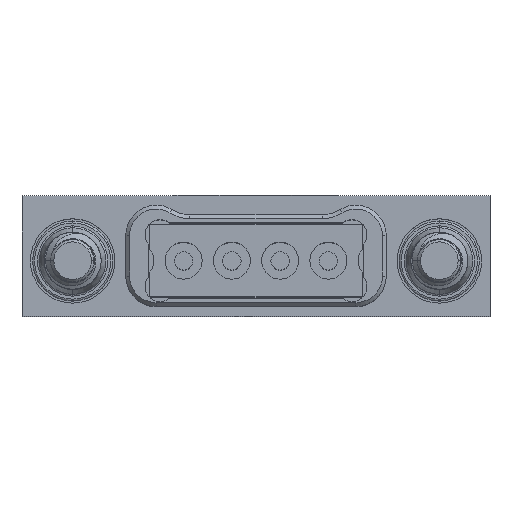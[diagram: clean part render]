
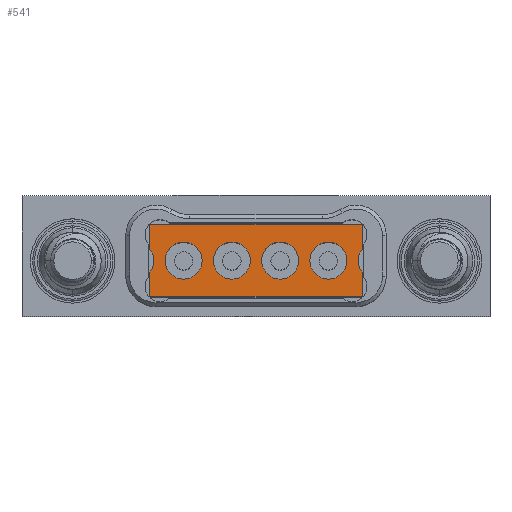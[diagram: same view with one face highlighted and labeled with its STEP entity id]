
A CAD part, top view. The second image highlights one B-rep face of the part: STEP entity #541.
In plain terms, the highlighted planar face has unit normal (0, 0, 1).
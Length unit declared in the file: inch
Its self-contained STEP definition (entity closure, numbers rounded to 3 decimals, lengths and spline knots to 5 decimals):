
#65 = DIRECTION ( 'NONE',  ( 0., 0., 1. ) ) ;
#93 = VERTEX_POINT ( 'NONE', #16876 ) ;
#238 = VERTEX_POINT ( 'NONE', #11364 ) ;
#462 = EDGE_CURVE ( 'NONE', #4793, #4223, #6267, .T. ) ;
#541 = ADVANCED_FACE ( 'NONE', ( #5456, #19055, #5262, #11614, #5549 ), #19146, .F. ) ;
#719 = EDGE_CURVE ( 'NONE', #16404, #9650, #7861, .T. ) ;
#757 = CARTESIAN_POINT ( 'NONE',  ( -0.075, -0.005, 0. ) ) ;
#848 = AXIS2_PLACEMENT_3D ( 'NONE', #11801, #14834, #7167 ) ;
#1144 = CARTESIAN_POINT ( 'NONE',  ( 0.025, -0.005, 0. ) ) ;
#1399 = AXIS2_PLACEMENT_3D ( 'NONE', #7723, #65, #6175 ) ;
#1415 = CARTESIAN_POINT ( 'NONE',  ( 0.11, 3.1419, 0. ) ) ;
#1645 = EDGE_CURVE ( 'NONE', #5217, #19242, #5521, .T. ) ;
#1769 = LINE ( 'NONE', #16771, #17273 ) ;
#1927 = EDGE_LOOP ( 'NONE', ( #10221, #14288, #5953, #7400, #2103, #6664, #8460, #19336 ) ) ;
#1970 = CIRCLE ( 'NONE', #16755, 0.0192 ) ;
#2103 = ORIENTED_EDGE ( 'NONE', *, *, #719, .F. ) ;
#2745 = DIRECTION ( 'NONE',  ( 0., -1., 0. ) ) ;
#3065 = DIRECTION ( 'NONE',  ( 0., -1., 0. ) ) ;
#3115 = DIRECTION ( 'NONE',  ( 0., -1., 0. ) ) ;
#3209 = CARTESIAN_POINT ( 'NONE',  ( -0.125, -0.005, 0. ) ) ;
#3502 = CARTESIAN_POINT ( 'NONE',  ( -0.11, 3.09846, 0. ) ) ;
#3556 = CARTESIAN_POINT ( 'NONE',  ( 0.075, -0.0242, 0. ) ) ;
#3743 = DIRECTION ( 'NONE',  ( 0., 0., 1. ) ) ;
#3839 = DIRECTION ( 'NONE',  ( 0., -1., 0. ) ) ;
#4132 = EDGE_CURVE ( 'NONE', #16732, #238, #19318, .T. ) ;
#4143 = VERTEX_POINT ( 'NONE', #4943 ) ;
#4223 = VERTEX_POINT ( 'NONE', #18425 ) ;
#4255 = EDGE_CURVE ( 'NONE', #8531, #93, #1970, .T. ) ;
#4571 = ORIENTED_EDGE ( 'NONE', *, *, #4255, .F. ) ;
#4634 = EDGE_CURVE ( 'NONE', #7201, #4143, #6794, .T. ) ;
#4777 = VECTOR ( 'NONE', #17083, 39.37008 ) ;
#4793 = VERTEX_POINT ( 'NONE', #3556 ) ;
#4931 = DIRECTION ( 'NONE',  ( 0., -1., 0. ) ) ;
#4943 = CARTESIAN_POINT ( 'NONE',  ( -0.11, 0.0325, 0. ) ) ;
#5038 = ORIENTED_EDGE ( 'NONE', *, *, #462, .F. ) ;
#5217 = VERTEX_POINT ( 'NONE', #5955 ) ;
#5262 = FACE_BOUND ( 'NONE', #13994, .T. ) ;
#5456 = FACE_OUTER_BOUND ( 'NONE', #1927, .T. ) ;
#5497 = AXIS2_PLACEMENT_3D ( 'NONE', #757, #11428, #3839 ) ;
#5521 = CIRCLE ( 'NONE', #18025, 0.0192 ) ;
#5532 = AXIS2_PLACEMENT_3D ( 'NONE', #3209, #15590, #4931 ) ;
#5549 = FACE_BOUND ( 'NONE', #10330, .T. ) ;
#5908 = DIRECTION ( 'NONE',  ( 0., -1., 0. ) ) ;
#5953 = ORIENTED_EDGE ( 'NONE', *, *, #6538, .F. ) ;
#5955 = CARTESIAN_POINT ( 'NONE',  ( 0.025, 0.0142, 0. ) ) ;
#5974 = VERTEX_POINT ( 'NONE', #8249 ) ;
#6150 = DIRECTION ( 'NONE',  ( 0., 0., 1. ) ) ;
#6175 = DIRECTION ( 'NONE',  ( 0., -1., 0. ) ) ;
#6231 = DIRECTION ( 'NONE',  ( 0., -1., 0. ) ) ;
#6267 = CIRCLE ( 'NONE', #11455, 0.0192 ) ;
#6327 = DIRECTION ( 'NONE',  ( 0., -1., 0. ) ) ;
#6379 = DIRECTION ( 'NONE',  ( -1., 0., 0. ) ) ;
#6538 = EDGE_CURVE ( 'NONE', #8754, #14495, #14247, .T. ) ;
#6570 = EDGE_CURVE ( 'NONE', #4143, #14495, #12706, .T. ) ;
#6664 = ORIENTED_EDGE ( 'NONE', *, *, #19271, .F. ) ;
#6794 = LINE ( 'NONE', #15649, #10076 ) ;
#7054 = EDGE_CURVE ( 'NONE', #93, #8531, #15848, .T. ) ;
#7167 = DIRECTION ( 'NONE',  ( 0., 1., 0. ) ) ;
#7201 = VERTEX_POINT ( 'NONE', #8147 ) ;
#7400 = ORIENTED_EDGE ( 'NONE', *, *, #16253, .T. ) ;
#7412 = CARTESIAN_POINT ( 'NONE',  ( -0.025, 0.0142, 0. ) ) ;
#7433 = DIRECTION ( 'NONE',  ( 0., 0., 1. ) ) ;
#7456 = EDGE_CURVE ( 'NONE', #238, #16732, #18095, .T. ) ;
#7479 = EDGE_CURVE ( 'NONE', #5974, #10759, #8176, .T. ) ;
#7556 = ORIENTED_EDGE ( 'NONE', *, *, #16538, .F. ) ;
#7723 = CARTESIAN_POINT ( 'NONE',  ( 0.125, -0.005, 0. ) ) ;
#7841 = DIRECTION ( 'NONE',  ( 0., -1., 0. ) ) ;
#7845 = AXIS2_PLACEMENT_3D ( 'NONE', #13778, #7433, #5908 ) ;
#7861 = LINE ( 'NONE', #12777, #4777 ) ;
#8004 = CARTESIAN_POINT ( 'NONE',  ( -0.075, 0.0142, 0. ) ) ;
#8016 = AXIS2_PLACEMENT_3D ( 'NONE', #1144, #9002, #2745 ) ;
#8147 = CARTESIAN_POINT ( 'NONE',  ( 0.11, 0.0325, 0. ) ) ;
#8176 = CIRCLE ( 'NONE', #1399, 0.0192 ) ;
#8249 = CARTESIAN_POINT ( 'NONE',  ( 0.11, 0.00698, 0. ) ) ;
#8460 = ORIENTED_EDGE ( 'NONE', *, *, #7479, .F. ) ;
#8486 = DIRECTION ( 'NONE',  ( 0., -1., 0. ) ) ;
#8531 = VERTEX_POINT ( 'NONE', #7412 ) ;
#8754 = VERTEX_POINT ( 'NONE', #11485 ) ;
#8932 = EDGE_CURVE ( 'NONE', #4223, #4793, #18126, .T. ) ;
#8964 = CIRCLE ( 'NONE', #8016, 0.0192 ) ;
#9002 = DIRECTION ( 'NONE',  ( 0., 0., 1. ) ) ;
#9188 = CARTESIAN_POINT ( 'NONE',  ( 0.025, -0.005, 0. ) ) ;
#9212 = ORIENTED_EDGE ( 'NONE', *, *, #4132, .F. ) ;
#9650 = VERTEX_POINT ( 'NONE', #17976 ) ;
#9899 = EDGE_LOOP ( 'NONE', ( #14754, #9212 ) ) ;
#10076 = VECTOR ( 'NONE', #6379, 39.37008 ) ;
#10221 = ORIENTED_EDGE ( 'NONE', *, *, #4634, .T. ) ;
#10284 = LINE ( 'NONE', #1415, #12265 ) ;
#10330 = EDGE_LOOP ( 'NONE', ( #5038, #16921 ) ) ;
#10759 = VERTEX_POINT ( 'NONE', #18786 ) ;
#11356 = DIRECTION ( 'NONE',  ( 0., -1., 0. ) ) ;
#11364 = CARTESIAN_POINT ( 'NONE',  ( -0.075, -0.0242, 0. ) ) ;
#11428 = DIRECTION ( 'NONE',  ( 0., 0., 1. ) ) ;
#11455 = AXIS2_PLACEMENT_3D ( 'NONE', #17530, #3743, #19337 ) ;
#11485 = CARTESIAN_POINT ( 'NONE',  ( -0.11, -0.01698, 0. ) ) ;
#11614 = FACE_BOUND ( 'NONE', #19827, .T. ) ;
#11685 = ORIENTED_EDGE ( 'NONE', *, *, #1645, .F. ) ;
#11801 = CARTESIAN_POINT ( 'NONE',  ( -2.31, -0.0425, 0. ) ) ;
#12265 = VECTOR ( 'NONE', #13707, 39.37008 ) ;
#12559 = CARTESIAN_POINT ( 'NONE',  ( 0.075, -0.005, 0. ) ) ;
#12706 = LINE ( 'NONE', #3502, #13928 ) ;
#12760 = EDGE_CURVE ( 'NONE', #7201, #5974, #10284, .T. ) ;
#12777 = CARTESIAN_POINT ( 'NONE',  ( -2.31, -0.0425, 0. ) ) ;
#13100 = CARTESIAN_POINT ( 'NONE',  ( -0.025, -0.005, 0. ) ) ;
#13707 = DIRECTION ( 'NONE',  ( 0., -1., 0. ) ) ;
#13733 = ORIENTED_EDGE ( 'NONE', *, *, #7054, .F. ) ;
#13778 = CARTESIAN_POINT ( 'NONE',  ( -0.025, -0.005, 0. ) ) ;
#13793 = CARTESIAN_POINT ( 'NONE',  ( -0.11, 0.00698, 0. ) ) ;
#13928 = VECTOR ( 'NONE', #3115, 39.37008 ) ;
#13994 = EDGE_LOOP ( 'NONE', ( #13733, #4571 ) ) ;
#14164 = DIRECTION ( 'NONE',  ( 0., 0., 1. ) ) ;
#14247 = CIRCLE ( 'NONE', #5532, 0.0192 ) ;
#14288 = ORIENTED_EDGE ( 'NONE', *, *, #6570, .T. ) ;
#14420 = DIRECTION ( 'NONE',  ( 0., 0., 1. ) ) ;
#14495 = VERTEX_POINT ( 'NONE', #13793 ) ;
#14754 = ORIENTED_EDGE ( 'NONE', *, *, #7456, .F. ) ;
#14834 = DIRECTION ( 'NONE',  ( 0., 0., -1. ) ) ;
#15590 = DIRECTION ( 'NONE',  ( 0., 0., 1. ) ) ;
#15649 = CARTESIAN_POINT ( 'NONE',  ( -2.31, 0.0325, 0. ) ) ;
#15848 = CIRCLE ( 'NONE', #7845, 0.0192 ) ;
#16062 = VECTOR ( 'NONE', #6231, 39.37008 ) ;
#16253 = EDGE_CURVE ( 'NONE', #8754, #9650, #17110, .T. ) ;
#16404 = VERTEX_POINT ( 'NONE', #17239 ) ;
#16538 = EDGE_CURVE ( 'NONE', #19242, #5217, #8964, .T. ) ;
#16719 = CARTESIAN_POINT ( 'NONE',  ( -0.11, 3.09846, 0. ) ) ;
#16732 = VERTEX_POINT ( 'NONE', #8004 ) ;
#16755 = AXIS2_PLACEMENT_3D ( 'NONE', #13100, #14420, #8486 ) ;
#16771 = CARTESIAN_POINT ( 'NONE',  ( 0.11, 3.1419, 0. ) ) ;
#16855 = DIRECTION ( 'NONE',  ( 0., 0., 1. ) ) ;
#16876 = CARTESIAN_POINT ( 'NONE',  ( -0.025, -0.0242, 0. ) ) ;
#16921 = ORIENTED_EDGE ( 'NONE', *, *, #8932, .F. ) ;
#17083 = DIRECTION ( 'NONE',  ( -1., 0., 0. ) ) ;
#17110 = LINE ( 'NONE', #16719, #16062 ) ;
#17132 = AXIS2_PLACEMENT_3D ( 'NONE', #19849, #16855, #3065 ) ;
#17239 = CARTESIAN_POINT ( 'NONE',  ( 0.11, -0.0425, 0. ) ) ;
#17273 = VECTOR ( 'NONE', #7841, 39.37008 ) ;
#17530 = CARTESIAN_POINT ( 'NONE',  ( 0.075, -0.005, 0. ) ) ;
#17974 = CARTESIAN_POINT ( 'NONE',  ( 0.025, -0.0242, 0. ) ) ;
#17976 = CARTESIAN_POINT ( 'NONE',  ( -0.11, -0.0425, 0. ) ) ;
#18025 = AXIS2_PLACEMENT_3D ( 'NONE', #9188, #6150, #6327 ) ;
#18095 = CIRCLE ( 'NONE', #17132, 0.0192 ) ;
#18126 = CIRCLE ( 'NONE', #19096, 0.0192 ) ;
#18425 = CARTESIAN_POINT ( 'NONE',  ( 0.075, 0.0142, 0. ) ) ;
#18786 = CARTESIAN_POINT ( 'NONE',  ( 0.11, -0.01698, 0. ) ) ;
#19055 = FACE_BOUND ( 'NONE', #9899, .T. ) ;
#19096 = AXIS2_PLACEMENT_3D ( 'NONE', #12559, #14164, #11356 ) ;
#19146 = PLANE ( 'NONE',  #848 ) ;
#19242 = VERTEX_POINT ( 'NONE', #17974 ) ;
#19271 = EDGE_CURVE ( 'NONE', #10759, #16404, #1769, .T. ) ;
#19318 = CIRCLE ( 'NONE', #5497, 0.0192 ) ;
#19336 = ORIENTED_EDGE ( 'NONE', *, *, #12760, .F. ) ;
#19337 = DIRECTION ( 'NONE',  ( 0., -1., 0. ) ) ;
#19827 = EDGE_LOOP ( 'NONE', ( #7556, #11685 ) ) ;
#19849 = CARTESIAN_POINT ( 'NONE',  ( -0.075, -0.005, 0. ) ) ;
